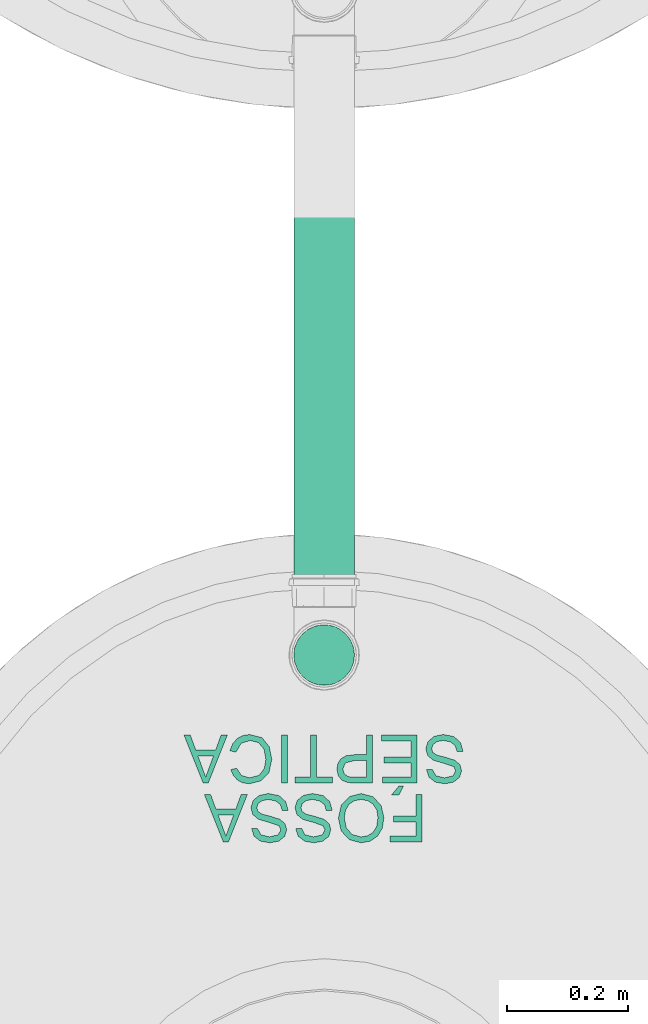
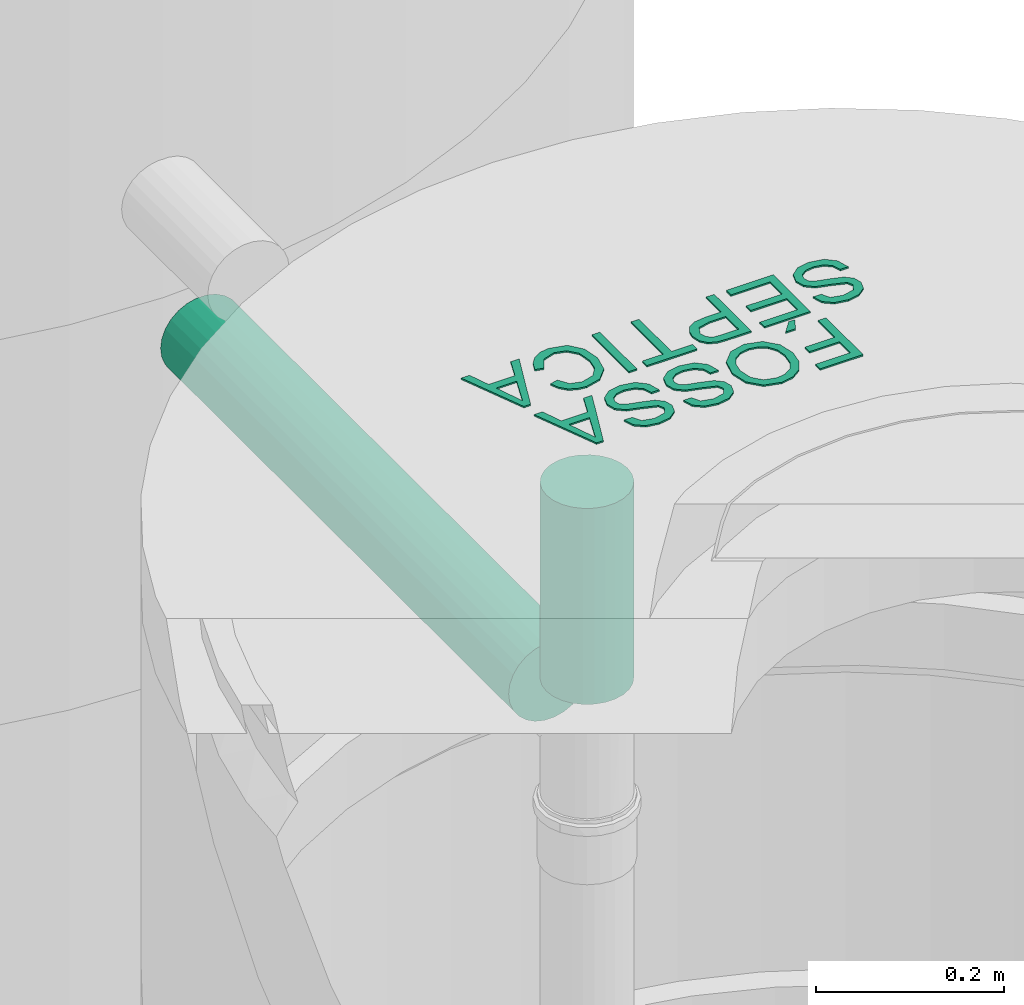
# One storey, part 177 of 589: 2 flow segments, 1 flow terminal.
"""IFC2X3 building model written with IfcOpenShell, lengths in millimetres."""

from ifc_helpers import new_model, entity, si_unit, converted_unit, derived_unit, direction, frame, origin, origin_2d_with_axis, place, context, subcontext, project, spatial, polyline, rectangle, circle, outline, extrude, source, transform, mapped, material, type_object, type_shapes, element, save


model = new_model("IFC2X3")

# Units and contexts
model_context = context("Model", 3, precision=0.01, world=origin(), true_north=direction((6.123031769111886e-17, 1.0)))
body_context = subcontext(model_context, "Body", "Model", "MODEL_VIEW")
ifc_project = project(units=[si_unit("LENGTHUNIT", "METRE", prefix="MILLI"), si_unit("AREAUNIT", "SQUARE_METRE"), si_unit("VOLUMEUNIT", "CUBIC_METRE"), converted_unit("PLANEANGLEUNIT", "DEGREE", entity("IfcRatioMeasure", 0.017453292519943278), si_unit("PLANEANGLEUNIT", "RADIAN"), dimensions=[0, 0, 0, 0, 0, 0, 0]), si_unit("MASSUNIT", "GRAM", prefix="KILO"), derived_unit("MASSDENSITYUNIT", [(si_unit("MASSUNIT", "GRAM", prefix="KILO"), 1), (si_unit("LENGTHUNIT", "METRE"), -3)]), derived_unit("IONCONCENTRATIONUNIT", [(si_unit("MASSUNIT", "GRAM", prefix="KILO"), 1), (si_unit("LENGTHUNIT", "METRE"), -3)]), derived_unit("MOMENTOFINERTIAUNIT", [(si_unit("LENGTHUNIT", "METRE"), 4)]), si_unit("TIMEUNIT", "SECOND"), si_unit("FREQUENCYUNIT", "HERTZ"), si_unit("THERMODYNAMICTEMPERATUREUNIT", "DEGREE_CELSIUS"), derived_unit("THERMALTRANSMITTANCEUNIT", [(si_unit("MASSUNIT", "GRAM", prefix="KILO"), 1), (si_unit("THERMODYNAMICTEMPERATUREUNIT", "KELVIN"), -1), (si_unit("TIMEUNIT", "SECOND"), -3)]), derived_unit("THERMALCONDUCTANCEUNIT", [(si_unit("MASSUNIT", "GRAM", prefix="KILO"), 1), (si_unit("THERMODYNAMICTEMPERATUREUNIT", "KELVIN"), -1), (si_unit("TIMEUNIT", "SECOND"), -3), (si_unit("LENGTHUNIT", "METRE"), 1)]), derived_unit("VOLUMETRICFLOWRATEUNIT", [(si_unit("LENGTHUNIT", "METRE"), 3), (si_unit("TIMEUNIT", "SECOND"), -1)]), derived_unit("MASSFLOWRATEUNIT", [(si_unit("MASSUNIT", "GRAM", prefix="KILO"), 1), (si_unit("TIMEUNIT", "SECOND"), -1)]), derived_unit("ROTATIONALFREQUENCYUNIT", [(si_unit("TIMEUNIT", "SECOND"), -1)]), si_unit("ELECTRICCURRENTUNIT", "AMPERE"), si_unit("ELECTRICVOLTAGEUNIT", "VOLT"), si_unit("POWERUNIT", "WATT"), si_unit("FORCEUNIT", "NEWTON", prefix="KILO"), si_unit("ILLUMINANCEUNIT", "LUX"), si_unit("LUMINOUSFLUXUNIT", "LUMEN"), si_unit("LUMINOUSINTENSITYUNIT", "CANDELA"), derived_unit("USERDEFINED", [(si_unit("MASSUNIT", "GRAM", prefix="KILO"), -1), (si_unit("LENGTHUNIT", "METRE"), -2), (si_unit("TIMEUNIT", "SECOND"), 3), (si_unit("LUMINOUSFLUXUNIT", "LUMEN"), 1)]), derived_unit("USERDEFINED", [(si_unit("MASSUNIT", "GRAM", prefix="KILO"), 1), (si_unit("TIMEUNIT", "SECOND"), -3), (si_unit("LENGTHUNIT", "METRE"), 3), (si_unit("ELECTRICCURRENTUNIT", "AMPERE"), -2)]), derived_unit("SOUNDPOWERUNIT", [(si_unit("MASSUNIT", "GRAM", prefix="KILO"), 1), (si_unit("TIMEUNIT", "SECOND"), -3), (si_unit("LENGTHUNIT", "METRE"), 2)]), derived_unit("SOUNDPRESSUREUNIT", [(si_unit("MASSUNIT", "GRAM", prefix="KILO"), 1), (si_unit("LENGTHUNIT", "METRE"), -1), (si_unit("TIMEUNIT", "SECOND"), -2)]), derived_unit("LINEARVELOCITYUNIT", [(si_unit("LENGTHUNIT", "METRE"), 1), (si_unit("TIMEUNIT", "SECOND"), -1)]), si_unit("PRESSUREUNIT", "PASCAL"), derived_unit("USERDEFINED", [(si_unit("MASSUNIT", "GRAM", prefix="KILO"), 1), (si_unit("LENGTHUNIT", "METRE"), -2), (si_unit("TIMEUNIT", "SECOND"), -2)]), derived_unit("LINEARFORCEUNIT", [(si_unit("MASSUNIT", "GRAM", prefix="KILO"), 1), (si_unit("TIMEUNIT", "SECOND"), -2)]), derived_unit("PLANARFORCEUNIT", [(si_unit("MASSUNIT", "GRAM", prefix="KILO"), 1), (si_unit("LENGTHUNIT", "METRE"), -1), (si_unit("TIMEUNIT", "SECOND"), -2)]), derived_unit("SPECIFICHEATCAPACITYUNIT", [(si_unit("THERMODYNAMICTEMPERATUREUNIT", "KELVIN"), -1), (si_unit("LENGTHUNIT", "METRE"), 2), (si_unit("TIMEUNIT", "SECOND"), -2)]), derived_unit("HEATINGVALUEUNIT", [(si_unit("LENGTHUNIT", "METRE"), 2), (si_unit("TIMEUNIT", "SECOND"), -2)]), derived_unit("VAPORPERMEABILITYUNIT", [(si_unit("LENGTHUNIT", "METRE"), -1), (si_unit("TIMEUNIT", "SECOND"), 1)]), derived_unit("DYNAMICVISCOSITYUNIT", [(si_unit("MASSUNIT", "GRAM", prefix="KILO"), 1), (si_unit("TIMEUNIT", "SECOND"), -1), (si_unit("LENGTHUNIT", "METRE"), -1)]), derived_unit("THERMALEXPANSIONCOEFFICIENTUNIT", [(si_unit("THERMODYNAMICTEMPERATUREUNIT", "KELVIN"), -1)]), derived_unit("MODULUSOFELASTICITYUNIT", [(si_unit("MASSUNIT", "GRAM", prefix="KILO"), 1), (si_unit("LENGTHUNIT", "METRE"), -1), (si_unit("TIMEUNIT", "SECOND"), -2)]), derived_unit("ISOTHERMALMOISTURECAPACITYUNIT", [(si_unit("LENGTHUNIT", "METRE"), 3), (si_unit("MASSUNIT", "GRAM", prefix="KILO"), -1)]), derived_unit("MOISTUREDIFFUSIVITYUNIT", [(si_unit("TIMEUNIT", "SECOND"), -1), (si_unit("LENGTHUNIT", "METRE"), 2)])], contexts=[model_context])

# Site, building, storey
site_placement = place(None, origin())
site = spatial("IfcSite", under=ifc_project, at=site_placement, Name="Default", CompositionType="ELEMENT")
building_placement = place(site_placement, origin())
building = spatial("IfcBuilding", under=site, at=building_placement, CompositionType="ELEMENT")
storey_placement = place(building_placement, frame((0.0, 0.0, 100.0)))
storey = spatial("IfcBuildingStorey", under=building, at=storey_placement, Name="TÉRREO", CompositionType="ELEMENT", Elevation=100.0)

# Flow segments
pipe_segment_type = type_object("IfcPipeSegmentType", Name="Tipos de tubos:PVC Esgoto Série Normal", PredefinedType="NOTDEFINED")
flow_segment_1_placement = place(storey_placement, origin())
element("IfcFlowSegment", 1, at=flow_segment_1_placement, inside=storey, type_object=pipe_segment_type, Name="Tipos de tubos:PVC Esgoto Série Normal", ObjectType="Tipos de tubos:PVC Esgoto Série Normal", context=body_context, shape_type="SweptSolid", body=[
    extrude(circle(Radius=50.0, at=origin_2d_with_axis()), frame((20055.667196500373, -7994.002126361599, -647.5499999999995), z_axis=(0.0, 0.0, 1.0), x_axis=(-1.0, 0.0, 0.0)), (0.0, 0.0, 1.0), 254.39982103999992),
])
flow_segment_2_placement = place(storey_placement, origin())
element("IfcFlowSegment", 2, at=flow_segment_2_placement, inside=storey, type_object=pipe_segment_type, Name="Tipos de tubos:PVC Esgoto Série Normal", ObjectType="Tipos de tubos:PVC Esgoto Série Normal", context=body_context, shape_type="SweptSolid", body=[
    extrude(circle(Radius=50.0, at=origin_2d_with_axis()), frame((20055.667196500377, -7913.9021263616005, -700.0), z_axis=(0.0, 1.0, 0.0), x_axis=(1.0, 0.0, 0.0)), (0.0, 0.0, 1.0), 740.0000000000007),
])

# Flow terminal
ifc_material = material(Name="<Unnamed>")
distribution_element_type = type_object("IfcDistributionElementType", Name="Fossa Septica_Rodrigo MEP:Fossa Septica", material=ifc_material)
shared_shape = source(origin(), body_context, "Body", "SweptSolid", [
    extrude(outline(polyline([(-23.87692307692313, -45.78461538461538), (-14.030769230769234, -45.78461538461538), (-14.030769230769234, -10.092307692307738), (22.89230769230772, -10.092307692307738), (22.89230769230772, -0.24615384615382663), (-14.030769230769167, -0.24615384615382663), (-14.030769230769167, 23.1384615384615), (29.046153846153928, 23.1384615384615), (29.046153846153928, 32.984615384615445), (-23.87692307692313, 32.984615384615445), (-23.87692307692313, -45.78461538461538)])), frame((274.98461538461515, -137.353846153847, 0.0), z_axis=(0.0, 0.0, 1.0), x_axis=(0.0, 1.0, 0.0)), (0.0, 0.0, 1.0), 2.0),
    extrude(outline(polyline([(-5.014344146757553, -35.36286547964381), (15.101226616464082, -35.36286547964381), (32.30602401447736, -25.736980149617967), (41.95718396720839, -7.629411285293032), (41.49934513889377, 12.038781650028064), (30.64621348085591, 28.538720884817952), (10.899972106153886, 38.01353300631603), (-10.666676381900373, 38.267667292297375), (-27.757478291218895, 28.536693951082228), (-37.20199671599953, 10.598734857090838), (-37.87937636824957, -4.709820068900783), (-32.48615382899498, -18.28439063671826), (-21.403939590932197, -28.90779854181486), (-5.014344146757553, -35.36286547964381)]), holes=[polyline([(-2.717970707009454, -25.787759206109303), (-16.618506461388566, -20.49098378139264), (-24.806929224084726, -12.292746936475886), (-28.16949853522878, -2.2819992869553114), (-27.59247393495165, 8.452308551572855), (-20.63890999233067, 21.68400788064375), (-7.964383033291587, 28.808018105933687), (8.622342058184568, 28.43412466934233), (20.888478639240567, 23.61360398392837), (29.0094989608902, 15.734198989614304), (32.86827061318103, 5.725479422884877), (32.3476611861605, -5.482984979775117), (27.982661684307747, -15.646289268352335), (20.205013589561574, -22.969369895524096), (9.732281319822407, -26.625451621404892), (-2.717970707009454, -25.787759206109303)])]), frame((279.39940828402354, -62.87315088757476, 0.0), z_axis=(0.0, 0.0, 1.0), x_axis=(0.9746563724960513, 0.22370729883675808, 0.0)), (0.0, 0.0, 1.0), 2.0),
    extrude(outline(polyline([(2.5089585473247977, -33.620380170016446), (18.136428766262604, -33.62038017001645), (30.748032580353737, -25.623798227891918), (38.71383832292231, -9.599656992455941), (39.81272968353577, 5.567377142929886), (34.301979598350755, 17.676303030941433), (23.926779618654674, 24.27548459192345), (12.377658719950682, 24.35192221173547), (2.1062529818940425, 17.352650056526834), (-7.388104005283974, 1.930354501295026), (-17.05303757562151, -12.044856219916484), (-24.475130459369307, -13.20469652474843), (-31.137272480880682, -6.725602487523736), (-30.560771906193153, 7.759728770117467), (-23.443624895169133, 20.356648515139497), (-12.192811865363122, 22.972424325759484), (-9.515081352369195, 32.44747075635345), (-22.439073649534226, 32.043155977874), (-33.20229512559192, 24.29358823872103), (-40.140417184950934, 10.067340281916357), (-41.52836343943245, -4.7082527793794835), (-36.67115500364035, -16.442634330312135), (-26.875271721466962, -22.758192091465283), (-16.705246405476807, -22.764628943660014), (-7.376839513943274, -16.697895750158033), (1.4929416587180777, -3.167431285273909), (9.009776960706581, 9.606300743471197), (15.132430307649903, 14.830409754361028), (21.489626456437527, 14.732448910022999), (27.252821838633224, 10.835538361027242), (30.201905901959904, 3.0976374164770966), (29.134193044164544, -7.292045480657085), (23.637523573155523, -18.008800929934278), (15.533928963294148, -23.772197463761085), (5.1866890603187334, -24.14533373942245), (2.5089585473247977, -33.620380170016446)])), frame((282.1346153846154, 18.132417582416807, 0.0), z_axis=(0.0, 0.0, 1.0), x_axis=(0.9623094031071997, 0.2719570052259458, 0.0)), (0.0, 0.0, 1.0), 2.0),
    extrude(outline(polyline([(2.5089585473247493, -33.620380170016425), (18.136428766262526, -33.62038017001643), (30.748032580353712, -25.62379822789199), (38.713838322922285, -9.599656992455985), (39.812729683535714, 5.567377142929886), (34.30197959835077, 17.67630303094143), (23.92677961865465, 24.275484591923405), (12.377658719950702, 24.35192221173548), (2.106252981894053, 17.35265005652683), (-7.3881040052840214, 1.9303545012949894), (-17.053037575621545, -12.04485621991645), (-24.475130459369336, -13.204696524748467), (-31.137272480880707, -6.725602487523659), (-30.56077190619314, 7.759728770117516), (-23.443624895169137, 20.356648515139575), (-12.19281186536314, 22.972424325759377), (-9.515081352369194, 32.44747075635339), (-22.43907364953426, 32.04315597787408), (-33.20229512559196, 24.293588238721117), (-40.14041718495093, 10.067340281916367), (-41.5283634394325, -4.708252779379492), (-36.671155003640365, -16.4426343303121), (-26.875271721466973, -22.758192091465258), (-16.705246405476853, -22.76462894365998), (-7.37683951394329, -16.69789575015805), (1.49294165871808, -3.167431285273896), (9.009776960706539, 9.606300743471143), (15.132430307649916, 14.830409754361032), (21.48962645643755, 14.732448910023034), (27.252821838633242, 10.835538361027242), (30.201905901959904, 3.097637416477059), (29.134193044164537, -7.292045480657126), (23.63752357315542, -18.008800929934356), (15.533928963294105, -23.772197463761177), (5.186689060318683, -24.145333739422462), (2.5089585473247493, -33.620380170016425)])), frame((282.13461538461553, 90.74780219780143, 0.0), z_axis=(0.0, 0.0, 1.0), x_axis=(0.9623094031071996, 0.2719570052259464, 0.0)), (0.0, 0.0, 1.0), 1.9999999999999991),
    extrude(outline(polyline([(-35.63221153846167, -25.84615384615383), (-25.22836538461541, -25.84615384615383), (-16.228365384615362, -1.2307692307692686), (16.21394230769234, -1.2307692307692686), (25.23317307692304, -25.846153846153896), (35.63701923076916, -25.846153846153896), (4.194711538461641, 52.92307692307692), (-4.189903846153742, 52.92307692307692), (-35.63221153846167, -25.84615384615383)]), holes=[polyline([(-12.612980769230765, 8.615384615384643), (-4.901442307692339, 29.67307692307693), (0.00240384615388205, 43.07692307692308), (5.521634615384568, 27.980769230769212), (12.617788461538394, 8.615384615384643), (-12.612980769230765, 8.615384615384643)])]), frame((294.9230769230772, 161.8437499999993, 0.0), z_axis=(0.0, 0.0, 1.0), x_axis=(0.0, 1.0, 0.0)), (0.0, 0.0, 1.0), 2.0),
    extrude(outline(polyline([(2.508958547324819, -33.62038017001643), (18.136428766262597, -33.62038017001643), (30.748032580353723, -25.623798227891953), (38.71383832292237, -9.599656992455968), (39.812729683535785, 5.5673771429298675), (34.30197959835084, 17.676303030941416), (23.926779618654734, 24.275484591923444), (12.377658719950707, 24.35192221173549), (2.106252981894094, 17.35265005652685), (-7.3881040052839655, 1.9303545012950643), (-17.05303757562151, -12.04485621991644), (-24.475130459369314, -13.204696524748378), (-31.137272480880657, -6.725602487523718), (-30.560771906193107, 7.75972877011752), (-23.44362489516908, 20.35664851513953), (-12.192811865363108, 22.972424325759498), (-9.515081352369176, 32.447470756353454), (-22.43907364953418, 32.043155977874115), (-33.2022951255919, 24.293588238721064), (-40.14041718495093, 10.0673402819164), (-41.52836343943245, -4.708252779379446), (-36.67115500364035, -16.442634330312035), (-26.875271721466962, -22.7581920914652), (-16.705246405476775, -22.764628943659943), (-7.376839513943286, -16.69789575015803), (1.4929416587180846, -3.1674312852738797), (9.009776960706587, 9.606300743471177), (15.132430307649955, 14.830409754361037), (21.489626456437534, 14.73244891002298), (27.2528218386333, 10.835538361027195), (30.201905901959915, 3.097637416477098), (29.13419304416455, -7.292045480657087), (23.6375235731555, -18.008800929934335), (15.533928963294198, -23.772197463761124), (5.186689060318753, -24.14533373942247), (2.508958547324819, -33.62038017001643)])), frame((379.3653846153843, -197.2521978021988, 0.0), z_axis=(0.0, 0.0, 1.0), x_axis=(0.9623094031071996, 0.2719570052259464, 0.0)), (0.0, 0.0, 1.0), 1.9999999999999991),
    extrude(outline(polyline([(-31.384615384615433, -39.794871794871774), (26.46153846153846, -39.794871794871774), (26.46153846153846, -29.9487179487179), (-21.53846153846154, -29.9487179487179), (-21.53846153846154, -4.102564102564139), (22.76923076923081, -4.102564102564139), (22.76923076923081, 5.743589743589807), (-21.53846153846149, 5.743589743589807), (-21.53846153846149, 29.128205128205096), (25.23076923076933, 29.128205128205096), (25.23076923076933, 38.97435897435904), (-31.384615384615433, 38.97435897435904), (-31.384615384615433, -39.794871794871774)])), frame((378.20512820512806, -121.2307692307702, 0.0), z_axis=(0.0, 0.0, 1.0), x_axis=(0.0, 1.0, 0.0)), (0.0, 0.0, 1.0), 2.0),
    extrude(outline(polyline([(-33.85650887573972, -47.38424556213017), (-24.01035502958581, -47.38424556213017), (-24.01035502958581, -15.384245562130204), (-3.9911242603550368, -15.384245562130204), (9.996856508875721, -13.643860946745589), (18.88387573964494, -8.42270710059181), (23.636279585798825, -0.6871301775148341), (25.22041420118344, 8.596523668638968), (22.874260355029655, 19.33690828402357), (16.67233727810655, 26.952292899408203), (7.105029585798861, 30.634985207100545), (-4.664201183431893, 31.384985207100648), (-33.85650887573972, 31.384985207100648), (-33.85650887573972, -47.38424556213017)]), holes=[polyline([(-24.010355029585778, -5.538091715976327), (-24.010355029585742, 21.538831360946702), (-3.6449704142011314, 21.538831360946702), (6.201183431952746, 20.86575443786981), (12.84541420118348, 16.404215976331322), (15.374260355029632, 8.250369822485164), (11.08579881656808, -1.922707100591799), (-3.414201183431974, -5.538091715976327), (-24.010355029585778, -5.538091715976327)])]), frame((370.6157544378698, -46.14349112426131, 0.0), z_axis=(0.0, 0.0, 1.0), x_axis=(0.0, 1.0, 0.0)), (0.0, 0.0, 1.0), 2.0),
    extrude(outline(polyline([(-4.923076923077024, -54.153846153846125), (4.923076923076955, -54.153846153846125), (4.923076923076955, 14.769230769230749), (30.769230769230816, 14.769230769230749), (30.769230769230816, 24.615384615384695), (-30.76923076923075, 24.615384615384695), (-30.76923076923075, 14.769230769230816), (-4.923076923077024, 14.769230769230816), (-4.923076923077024, -54.153846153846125)])), frame((363.8461538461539, 17.23076923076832, 0.0), z_axis=(0.0, 0.0, 1.0), x_axis=(0.0, 1.0, 0.0)), (0.0, 0.0, 1.0), 2.0),
    extrude(rectangle(XDim=9.84615384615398, YDim=78.76923076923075, at=origin_2d_with_axis()), frame((378.61538461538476, 65.2307692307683, 0.0), z_axis=(0.0, 0.0, 1.0), x_axis=(0.0, 1.0, 0.0)), (0.0, 0.0, 1.0), 2.0),
    extrude(outline(polyline([(-0.8451508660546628, -25.184402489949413), (-3.561840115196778, -34.98287849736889), (8.647657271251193, -36.775082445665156), (19.470142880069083, -34.78273878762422), (28.58875600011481, -29.228317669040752), (35.686635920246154, -20.334289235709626), (41.43517631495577, 0.002152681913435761), (34.456423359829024, 17.89579295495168), (18.270895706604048, 31.983756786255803), (-2.6025539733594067, 38.629928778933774), (-21.244738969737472, 34.06901179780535), (-34.800098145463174, 20.040244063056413), (-38.86147382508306, 9.920763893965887), (-39.331458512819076, -0.10979782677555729), (-36.31659413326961, -9.66821335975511), (-29.923422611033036, -18.371254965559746), (-22.97453564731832, -11.011624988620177), (-29.430650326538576, 2.030802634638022), (-26.07701881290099, 15.45738889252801), (-14.736991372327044, 26.701023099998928), (-0.5948256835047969, 28.59483412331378), (13.338134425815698, 23.46231433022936), (26.550719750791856, 12.419256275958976), (31.321422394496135, -1.0058493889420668), (27.64528126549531, -14.568418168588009), (15.890107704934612, -25.18440248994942), (-0.8451508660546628, -25.184402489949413)])), frame((378.15791420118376, 122.98816568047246, 0.0), z_axis=(0.0, 0.0, -1.0), x_axis=(0.866434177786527, -0.49929131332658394, 0.0)), (0.0, 0.0, -1.0), 2.0),
    extrude(outline(polyline([(-35.63221153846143, -25.846153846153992), (-25.228365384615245, -25.846153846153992), (-16.22836538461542, -1.2307692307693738), (16.213942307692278, -1.2307692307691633), (25.23317307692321, -25.84615384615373), (35.6370192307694, -25.846153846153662), (4.194711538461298, 52.92307692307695), (-4.1899038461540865, 52.9230769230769), (-35.63221153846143, -25.846153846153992)]), holes=[polyline([(-12.61298076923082, 8.615384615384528), (-4.901442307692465, 29.673076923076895), (0.0024038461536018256, 43.076923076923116), (5.521634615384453, 27.980769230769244), (12.617788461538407, 8.615384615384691), (-12.61298076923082, 8.615384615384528)])]), frame((392.15384615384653, 195.07451923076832, 0.0), z_axis=(0.0, 0.0, 1.0), x_axis=(0.0, 1.0, 0.0)), (0.0, 0.0, 1.0), 2.0),
    extrude(outline(polyline([(-8.615384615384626, -7.384615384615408), (-1.2307692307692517, -7.384615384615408), (11.076923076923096, 7.384615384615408), (-1.2307692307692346, 7.384615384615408), (-8.615384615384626, -7.384615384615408)])), frame((326.92307692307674, -121.84615384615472, 0.0), z_axis=(0.0, 0.0, 1.0), x_axis=(0.0, 1.0, 0.0)), (0.0, 0.0, 1.0), 2.0),
])
type_shapes(distribution_element_type, [shared_shape])
flow_terminal_placement = place(storey_placement, frame((20055.667196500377, -8544.0021263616, -100.0), z_axis=(0.0, 0.0, 1.0), x_axis=(0.0, 1.0, 0.0)))
element("IfcFlowTerminal", 3, at=flow_terminal_placement, inside=storey, type_object=distribution_element_type, material=ifc_material, Name="Fossa Septica_Rodrigo MEP:Fossa Septica", ObjectType="Fossa Septica_Rodrigo MEP:Fossa Septica", context=body_context, shape_type="MappedRepresentation", body=[
    mapped(shared_shape, transform((0.0, 0.0, 0.0), scale=1.0)),
])

save(model, "model.ifc")
